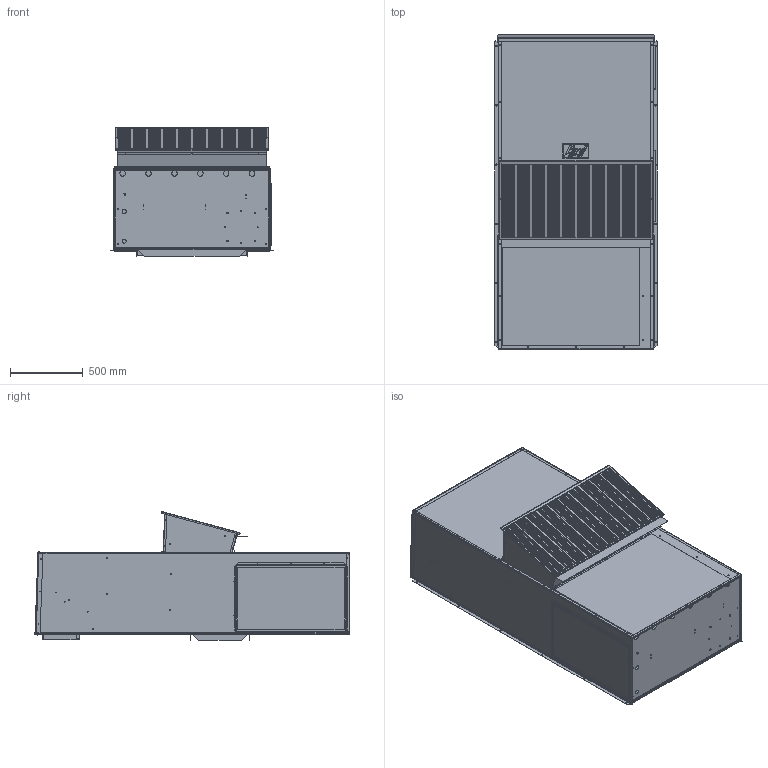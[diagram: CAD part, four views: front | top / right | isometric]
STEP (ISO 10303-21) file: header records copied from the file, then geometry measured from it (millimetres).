
FILE_DESCRIPTION (( 'STEP AP214' ), '1' );
FILE_NAME ('STEP_1000_11.STEP', '2016-06-24T13:25:39', ( 'BMC' ), ( 'Bard Manufacturing Co., Inc.' ), 'SwSTEP 2.0', 'SolidWorks 2016', '' );
FILE_SCHEMA (( 'AUTOMOTIVE_DESIGN' ));
Length unit declared in the file: inch
Products named in the file (1): STEP_1000_11
Bounding box: 1114.29 x 2156.46 x 882.82 mm (x, y, z)
Volume: 9605355.4 mm3; surface area: 19622805.1 mm2
Topology: 38 solids, 38 shells, 5065 faces, 14227 edges, 9312 vertices
Faces by surface type: plane 3085, cylinder 1112, torus 778, bspline 90
Entity records: 199286 total; most frequent: CARTESIAN_POINT 47211, ORIENTED_EDGE 28454, DIRECTION 27472, EDGE_CURVE 14227, VECTOR 9780, LINE 9780, VERTEX_POINT 9312, AXIS2_PLACEMENT_3D 8846
